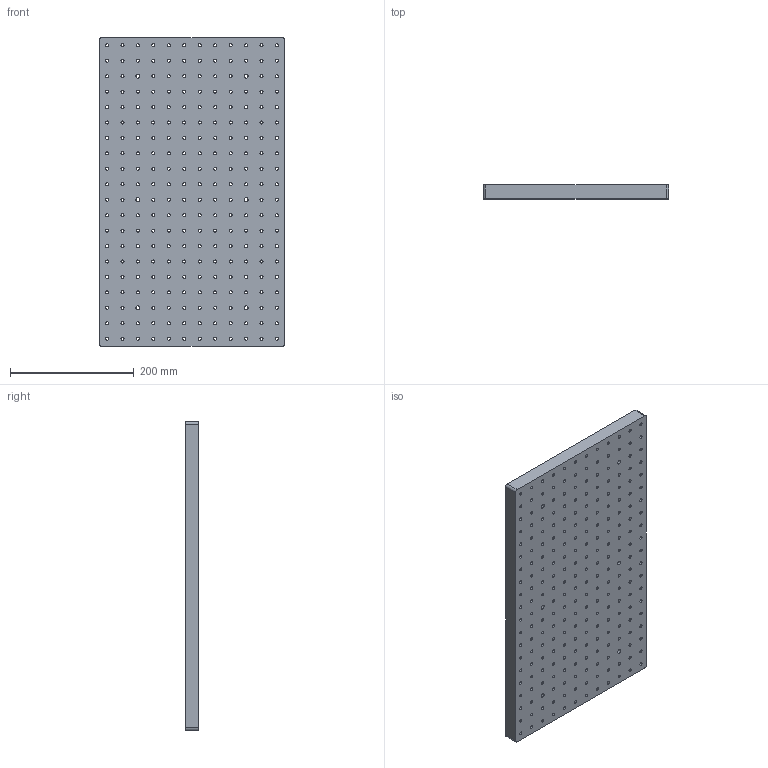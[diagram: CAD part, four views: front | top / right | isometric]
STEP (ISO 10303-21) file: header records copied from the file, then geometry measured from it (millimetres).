
FILE_DESCRIPTION(/* description */ (''),/* implementation_level */ '2;1');
FILE_NAME(/* name */ 'optical_board.stp',/* time_stamp */ '2026-04-13T15:51:52+08:00',/* author */ ('fangenhan'),/* organization */ (''),/* preprocessor_version */ 'ST-DEVELOPER v20',/* originating_system */ 'Autodesk Inventor 2025',/* authorisation */ '');
FILE_SCHEMA (('AUTOMOTIVE_DESIGN { 1 0 10303 214 3 1 1 }'));
Length unit declared in the file: millimetre
Products named in the file (1): board1
Bounding box: 300 x 22.5 x 500 mm (x, y, z)
Volume: 3265536.4 mm3; surface area: 411686.3 mm2
Topology: 1 solids, 1 shells, 262 faces, 762 edges, 509 vertices
Faces by surface type: cylinder 250, plane 12
Full cylindrical faces by diameter (mm): 4.917 x234, 6.6 x6, 11 x6
Entity records: 9980 total; most frequent: DIRECTION 1788, CARTESIAN_POINT 1534, ORIENTED_EDGE 1524, AXIS2_PLACEMENT_3D 763, EDGE_CURVE 762, EDGE_LOOP 748, VERTEX_POINT 508, CIRCLE 500
